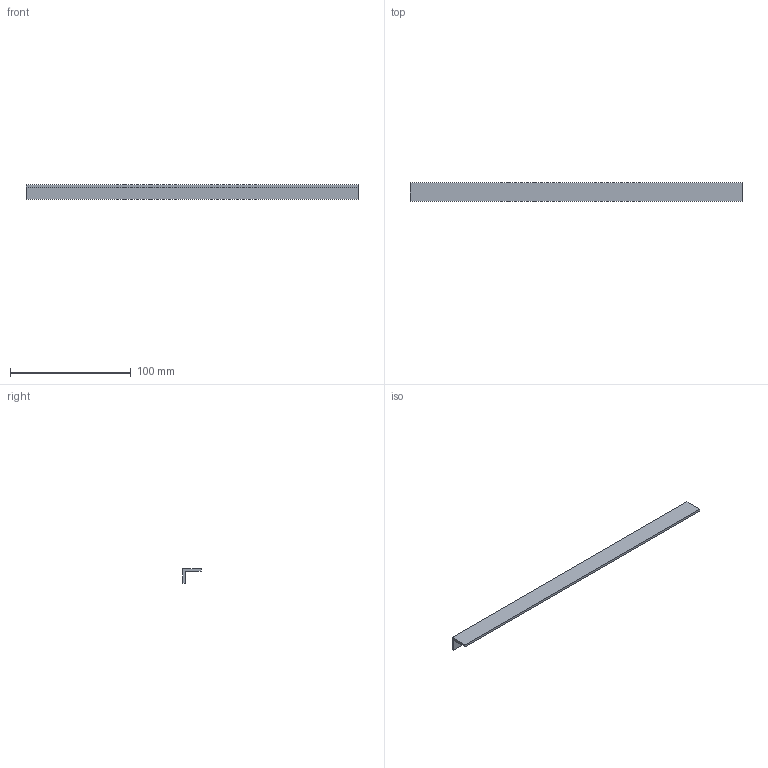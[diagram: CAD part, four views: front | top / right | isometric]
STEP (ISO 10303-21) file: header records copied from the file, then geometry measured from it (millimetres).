
FILE_DESCRIPTION(('FreeCAD Model'),'2;1');
FILE_NAME( '/home/bluelambda/Documents/Arcade/cad/step/back_top_L_profiling.step' ,'2016-05-08T12:12:30',('Author'),(''), 'Open CASCADE STEP processor 6.9','FreeCAD','Unknown');
FILE_SCHEMA(('AUTOMOTIVE_DESIGN { 1 0 10303 214 1 1 1 1 }'));
Length unit declared in the file: millimetre
Products named in the file (1): back_top_L_profiling
Bounding box: 275 x 15 x 12 mm (x, y, z)
Volume: 13750 mm3; surface area: 14950 mm2
Topology: 1 solids, 1 shells, 8 faces, 18 edges, 12 vertices
Faces by surface type: plane 8
Entity records: 477 total; most frequent: CARTESIAN_POINT 75, DIRECTION 72, LINE 54, VECTOR 54, ORIENTED_EDGE 36, PCURVE 36, DEFINITIONAL_REPRESENTATION 36, EDGE_CURVE 18
